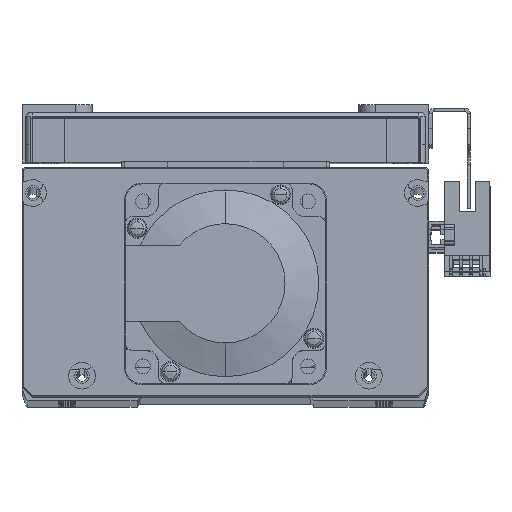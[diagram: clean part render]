
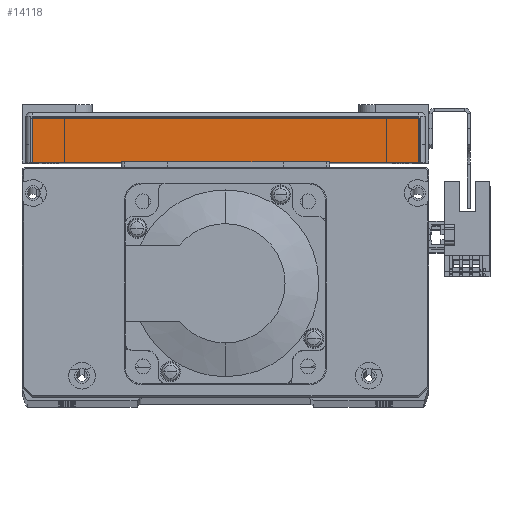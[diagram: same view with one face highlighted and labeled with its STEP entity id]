
A CAD part, top view. The second image highlights one B-rep face of the part: STEP entity #14118.
In plain terms, the highlighted planar face has unit normal (0, 0, 1) as drawn and (1, 0, 0) by its records, which use the part's own axes.
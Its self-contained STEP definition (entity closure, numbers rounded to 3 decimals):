
#1317 = AXIS2_PLACEMENT_3D ( 'NONE', #11277, #11308, #11271 ) ;
#1835 = DIRECTION ( 'NONE',  ( 0., -1., 0. ) ) ;
#1844 = CARTESIAN_POINT ( 'NONE',  ( 82.5, 15., 58. ) ) ;
#3916 = CARTESIAN_POINT ( 'NONE',  ( 82.5, 14., 58. ) ) ;
#3918 = DIRECTION ( 'NONE',  ( 0., 0., 1. ) ) ;
#6314 = EDGE_CURVE ( 'NONE', #36704, #36773, #32564, .T. ) ;
#6346 = EDGE_CURVE ( 'NONE', #36779, #36704, #32634, .T. ) ;
#11246 = EDGE_CURVE ( 'NONE', #36773, #36807, #18636, .T. ) ;
#11252 = EDGE_CURVE ( 'NONE', #36807, #36779, #18675, .T. ) ;
#11271 = DIRECTION ( 'NONE',  ( 0., 0., 1. ) ) ;
#11277 = CARTESIAN_POINT ( 'NONE',  ( 82.5, 15., -60. ) ) ;
#11305 = PLANE ( 'NONE',  #1317 ) ;
#11308 = DIRECTION ( 'NONE',  ( -1., 0., 0. ) ) ;
#14118 = ADVANCED_FACE ( 'NONE', ( #35776 ), #11305, .F. ) ;
#18630 = VECTOR ( 'NONE', #3918, 1000. ) ;
#18636 = LINE ( 'NONE', #3916, #18630 ) ;
#18669 = VECTOR ( 'NONE', #1835, 1000. ) ;
#18675 = LINE ( 'NONE', #1844, #18669 ) ;
#19900 = ORIENTED_EDGE ( 'NONE', *, *, #11246, .T. ) ;
#19914 = ORIENTED_EDGE ( 'NONE', *, *, #6346, .T. ) ;
#19931 = ORIENTED_EDGE ( 'NONE', *, *, #11252, .T. ) ;
#19935 = ORIENTED_EDGE ( 'NONE', *, *, #6314, .T. ) ;
#27488 = CARTESIAN_POINT ( 'NONE',  ( 82.5, 0., -58. ) ) ;
#27532 = CARTESIAN_POINT ( 'NONE',  ( 82.5, 14., 58. ) ) ;
#27575 = CARTESIAN_POINT ( 'NONE',  ( 82.5, 14., -58. ) ) ;
#27577 = CARTESIAN_POINT ( 'NONE',  ( 82.5, 0., 58. ) ) ;
#32554 = VECTOR ( 'NONE', #40490, 1000. ) ;
#32564 = LINE ( 'NONE', #40487, #32554 ) ;
#32596 = VECTOR ( 'NONE', #40554, 1000. ) ;
#32634 = LINE ( 'NONE', #40557, #32596 ) ;
#35776 = FACE_OUTER_BOUND ( 'NONE', #53196, .T. ) ;
#36704 = VERTEX_POINT ( 'NONE', #27488 ) ;
#36773 = VERTEX_POINT ( 'NONE', #27575 ) ;
#36779 = VERTEX_POINT ( 'NONE', #27577 ) ;
#36807 = VERTEX_POINT ( 'NONE', #27532 ) ;
#40487 = CARTESIAN_POINT ( 'NONE',  ( 82.5, 15., -58. ) ) ;
#40490 = DIRECTION ( 'NONE',  ( 0., 1., 0. ) ) ;
#40554 = DIRECTION ( 'NONE',  ( 0., 0., -1. ) ) ;
#40557 = CARTESIAN_POINT ( 'NONE',  ( 82.5, 0., -60. ) ) ;
#53196 = EDGE_LOOP ( 'NONE', ( #19935, #19900, #19931, #19914 ) ) ;
